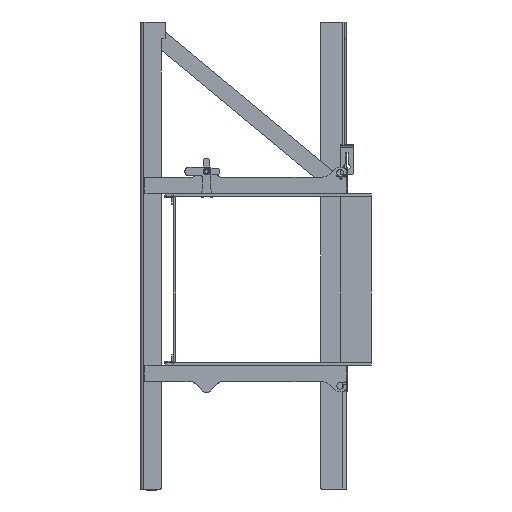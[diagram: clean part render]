
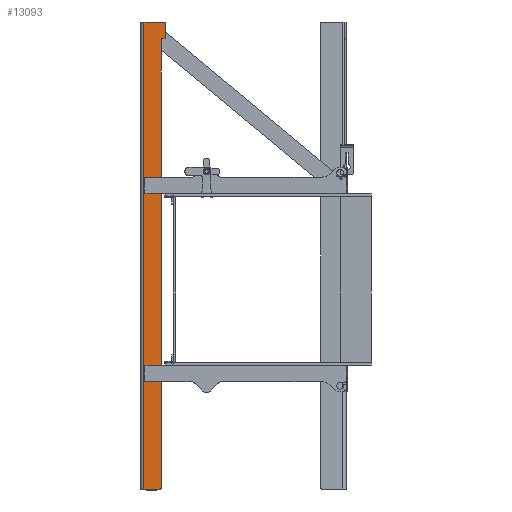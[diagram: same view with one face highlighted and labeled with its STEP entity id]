
A CAD part, left-side view. The second image highlights one B-rep face of the part: STEP entity #13093.
In plain terms, the highlighted planar face has unit normal (-1, 0, 0).
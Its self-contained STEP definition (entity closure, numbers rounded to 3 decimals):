
#1032=FACE_OUTER_BOUND('',#1759,.T.);
#1759=EDGE_LOOP('',(#10684,#10685,#10686,#10687,#10688,#10689,#10690,#10691,
#10692,#10693));
#2803=LINE('',#21336,#3944);
#2814=LINE('',#21371,#3955);
#2823=LINE('',#21396,#3964);
#2830=LINE('',#21412,#3971);
#2833=LINE('',#21420,#3974);
#2834=LINE('',#21422,#3975);
#3944=VECTOR('',#17403,10.);
#3955=VECTOR('',#17434,10.);
#3964=VECTOR('',#17459,10.);
#3971=VECTOR('',#17476,10.);
#3974=VECTOR('',#17489,10.);
#3975=VECTOR('',#17492,10.);
#4689=CIRCLE('',#14287,4.);
#4695=CIRCLE('',#14298,2.);
#4698=CIRCLE('',#14304,2.);
#4699=CIRCLE('',#14306,2.);
#5724=VERTEX_POINT('',#21323);
#5725=VERTEX_POINT('',#21324);
#5729=VERTEX_POINT('',#21334);
#5741=VERTEX_POINT('',#21364);
#5742=VERTEX_POINT('',#21366);
#5743=VERTEX_POINT('',#21370);
#5749=VERTEX_POINT('',#21389);
#5750=VERTEX_POINT('',#21391);
#5751=VERTEX_POINT('',#21395);
#5755=VERTEX_POINT('',#21411);
#7404=EDGE_CURVE('',#5724,#5725,#4689,.T.);
#7410=EDGE_CURVE('',#5729,#5725,#2803,.T.);
#7424=EDGE_CURVE('',#5742,#5741,#4695,.T.);
#7426=EDGE_CURVE('',#5742,#5743,#2814,.T.);
#7435=EDGE_CURVE('',#5729,#5743,#4698,.T.);
#7437=EDGE_CURVE('',#5750,#5749,#4699,.T.);
#7439=EDGE_CURVE('',#5750,#5751,#2823,.T.);
#7448=EDGE_CURVE('',#5755,#5751,#2830,.T.);
#7453=EDGE_CURVE('',#5741,#5755,#2833,.T.);
#7454=EDGE_CURVE('',#5749,#5724,#2834,.T.);
#10684=ORIENTED_EDGE('',*,*,#7424,.T.);
#10685=ORIENTED_EDGE('',*,*,#7453,.T.);
#10686=ORIENTED_EDGE('',*,*,#7448,.T.);
#10687=ORIENTED_EDGE('',*,*,#7439,.F.);
#10688=ORIENTED_EDGE('',*,*,#7437,.T.);
#10689=ORIENTED_EDGE('',*,*,#7454,.T.);
#10690=ORIENTED_EDGE('',*,*,#7404,.T.);
#10691=ORIENTED_EDGE('',*,*,#7410,.F.);
#10692=ORIENTED_EDGE('',*,*,#7435,.T.);
#10693=ORIENTED_EDGE('',*,*,#7426,.F.);
#11990=PLANE('',#14323);
#13093=ADVANCED_FACE('',(#1032),#11990,.T.);
#14287=AXIS2_PLACEMENT_3D('',#21325,#17393,#17394);
#14298=AXIS2_PLACEMENT_3D('',#21367,#17429,#17430);
#14304=AXIS2_PLACEMENT_3D('',#21387,#17449,#17450);
#14306=AXIS2_PLACEMENT_3D('',#21392,#17454,#17455);
#14323=AXIS2_PLACEMENT_3D('',#21427,#17501,#17502);
#17393=DIRECTION('center_axis',(1.,0.,0.));
#17394=DIRECTION('ref_axis',(0.,0.707,0.707));
#17403=DIRECTION('',(0.,1.,0.));
#17429=DIRECTION('center_axis',(-1.,0.,0.));
#17430=DIRECTION('ref_axis',(0.,-0.707,0.707));
#17434=DIRECTION('',(0.,0.,-1.));
#17449=DIRECTION('center_axis',(-1.,0.,0.));
#17450=DIRECTION('ref_axis',(0.,-0.707,-0.707));
#17454=DIRECTION('center_axis',(-1.,0.,0.));
#17455=DIRECTION('ref_axis',(0.,-0.707,-0.707));
#17459=DIRECTION('',(0.,1.,0.));
#17476=DIRECTION('',(0.,0.,-1.));
#17489=DIRECTION('',(0.,1.,0.));
#17492=DIRECTION('',(0.,0.,1.));
#17501=DIRECTION('center_axis',(-1.,0.,0.));
#17502=DIRECTION('ref_axis',(0.,0.,
-1.));
#21323=CARTESIAN_POINT('',(10.174,208.21,1015.));
#21324=CARTESIAN_POINT('',(10.174,204.21,1019.));
#21325=CARTESIAN_POINT('Origin',(10.174,204.21,1015.));
#21334=CARTESIAN_POINT('',(10.174,196.61,1019.));
#21336=CARTESIAN_POINT('',(10.174,194.61,1019.));
#21364=CARTESIAN_POINT('',(10.174,196.61,1069.));
#21366=CARTESIAN_POINT('',(10.174,194.61,1067.));
#21367=CARTESIAN_POINT('Origin',(10.174,196.61,1067.));
#21370=CARTESIAN_POINT('',(10.174,194.61,1021.));
#21371=CARTESIAN_POINT('',(10.174,194.61,1069.));
#21387=CARTESIAN_POINT('Origin',(10.174,196.61,1021.));
#21389=CARTESIAN_POINT('',(10.174,208.21,-332.));
#21391=CARTESIAN_POINT('',(10.174,210.21,-334.));
#21392=CARTESIAN_POINT('Origin',(10.174,210.21,-332.));
#21395=CARTESIAN_POINT('',(10.174,260.36,-334.));
#21396=CARTESIAN_POINT('',(10.174,208.21,-334.));
#21411=CARTESIAN_POINT('',(10.174,260.36,1069.));
#21412=CARTESIAN_POINT('',(10.174,260.36,367.5));
#21420=CARTESIAN_POINT('',(10.174,208.21,1069.));
#21422=CARTESIAN_POINT('',(10.174,208.21,-334.));
#21427=CARTESIAN_POINT('Origin',(10.174,272.501,367.5));
